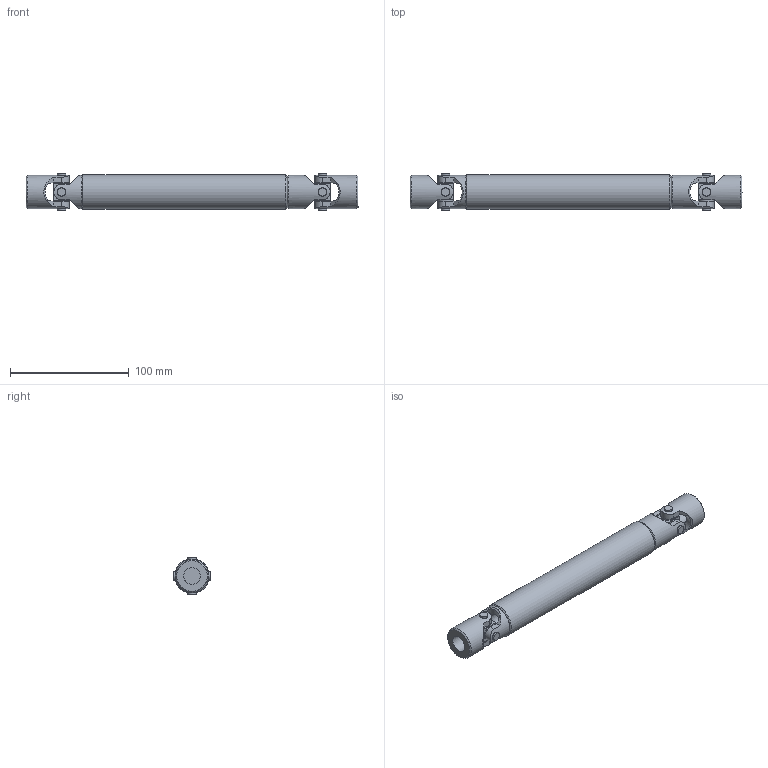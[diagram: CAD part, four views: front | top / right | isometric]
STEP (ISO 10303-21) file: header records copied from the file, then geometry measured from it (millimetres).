
FILE_DESCRIPTION(/* description */ (''),/* implementation_level */ '2;1');
FILE_NAME(/* name */ '\\SRV2016\societa\Stefano\Disegni 3D\0Catalogo 3D\15Trasmissioni speciali XA\Ø28_!05XA\05XA.stp',/* time_stamp */ '2023-05-16T17:59:44+02:00',/* author */ ('acquisti'),/* organization */ (''),/* preprocessor_version */ 'ST-DEVELOPER v15.6',/* originating_system */ 'Autodesk Inventor 2015',/* authorisation */ '');
FILE_SCHEMA (('AUTOMOTIVE_DESIGN { 1 0 10303 214 3 1 1 }'));
Length unit declared in the file: millimetre
Products named in the file (5): 05X LAI; 05X LCI; 05X MOS; 05X SFE; Ø28_!05XA
Assembly tree (6 placements, depth 2):
  Ø28_!05XA
    05X LAI
    05X LCI
    05X MOS  x2
    05X SFE  x2
Bounding box: 280 x 30.5 x 30.5 mm (x, y, z)
Volume: 126470.2 mm3; surface area: 56469 mm2
Topology: 6 solids, 6 shells, 182 faces, 469 edges, 315 vertices
Faces by surface type: plane 92, cylinder 61, cone 25, torus 4
Full cylindrical faces by diameter (mm): 7 x8, 12.5 x8, 14 x3, 14.5 x4, 24 x1, 28 x4, 29.5 x1
Entity records: 4869 total; most frequent: CARTESIAN_POINT 1453, DIRECTION 684, ORIENTED_EDGE 670, EDGE_CURVE 335, AXIS2_PLACEMENT_3D 270, VERTEX_POINT 241, EDGE_LOOP 188, LINE 144
